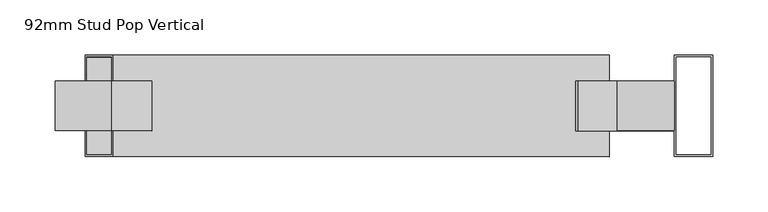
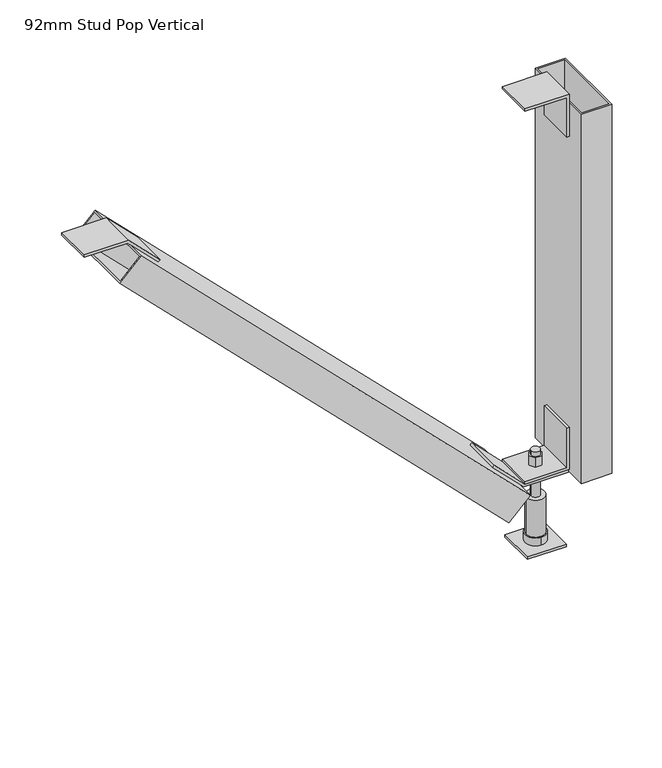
"""IFC4 building model written with IfcOpenShell, lengths in millimetres: beam geometry, Vertibrace Boxstud Brace : 92mm Stud Pop Vertical."""

from ifc_helpers import new_model, si_unit, frame, origin, origin_with_axes, place, context, project, spatial, polyline, circle_curve, outline, extrude, faceted_brep, source, transform, mapped, element, save
from ifc_brep_helpers import plane_surface, cylinder_surface, advanced_brep


def beam_92mm_stud_pop_vertical_ff91821f(model_context):
    return source(origin(), model_context, "Body", "SolidModel", [
        extrude(outline(polyline([(547.0013294, 23.235654), (498.7734408, 23.235654), (498.7734408, 26.2343246), (550.0, 26.2343246), (550.0, -24.9922346), (547.0013294, -24.9922346), (547.0013294, 23.235654)])), frame((0.0, -22.5, 0.0), z_axis=(0.0, 1.0, 0.0), x_axis=(0.0, 0.0, 1.0)), (0.0, 0.0, 1.0), 45.0),
        extrude(outline(polyline([(547.0013294, -483.535654), (511.6569723, -448.1912969), (513.7773526, -446.0709166), (550.0, -482.293564), (550.0, -533.5201232), (547.0013294, -533.5201232), (547.0013294, -483.535654)])), frame((0.0, -22.5, 0.0), z_axis=(0.0, 1.0, 0.0), x_axis=(0.0, 0.0, 1.0)), (0.0, 0.0, 1.0), 45.0),
        extrude(outline(polyline([(95.6986706, 23.235654), (95.6986706, -24.9922346), (92.7, -24.9922346), (92.7, 26.2343246), (143.9265592, 26.2343246), (143.9265592, 23.235654), (95.6986706, 23.235654)])), frame((0.0, -22.5, 0.0), z_axis=(0.0, 1.0, 0.0), x_axis=(0.0, 0.0, 1.0)), (0.0, 0.0, 1.0), 45.0),
        extrude(outline(polyline([(92.6986706, -24.9922346), (128.0430277, -60.3365917), (125.9226474, -62.456972), (89.7, -26.2343246), (89.7, 24.9922346), (92.6986706, 24.9922346), (92.6986706, -24.9922346)])), frame((0.0, -22.5, 0.0), z_axis=(0.0, 1.0, 0.0), x_axis=(0.0, 0.0, 1.0)), (0.0, 0.0, 1.0), 45.0),
        extrude(outline(polyline([(22.5, 22.5), (22.5, -22.5), (-22.5, -22.5), (-22.5, 22.5), (22.5, 22.5)])), origin_with_axes(), (0.0, 0.0, 1.0), 3.0),
        advanced_brep(
        [(-5.0, 0.0, 0.0), (5.0, 0.0, 0.0), (-5.0, 0.0, 113.0), (5.0, 0.0, 113.0), (5.0, 0.0, 3.0), (-5.0, 0.0, 3.0), (-5.0, 0.0, 107.4), (5.0, 0.0, 107.4), (-5.0, 0.0, 58.0), (5.0, 0.0, 58.0), (5.0, 0.0, 83.0), (-5.0, 0.0, 83.0), (5.0, 0.0, 95.7), (-5.0, 0.0, 95.7), (-5.0, 0.0, 89.7), (5.0, 0.0, 89.7), (-10.5, 0.0, 58.0), (10.5, 0.0, 58.0), (-10.5, 0.0, 13.0), (10.5, 0.0, 13.0), (0.0, -12.0, 13.0), (0.0, 12.0, 13.0), (3.75, 6.4951905, 107.4), (-3.75, 6.4951905, 107.4), (-7.5, 0.0, 107.4), (-3.75, -6.4951905, 107.4), (3.75, -6.4951905, 107.4), (7.5, 0.0, 107.4), (3.75, 6.4951905, 95.7), (7.5, 0.0, 95.7), (3.75, -6.4951905, 95.7), (-3.75, -6.4951905, 95.7), (-7.5, 0.0, 95.7), (-3.75, 6.4951905, 95.7), (-10.9696551, 0.0, 89.7), (-5.4848276, -9.5, 89.7), (5.4848276, -9.5, 89.7), (10.9696551, 0.0, 89.7), (5.4848276, 9.5, 89.7), (-5.4848276, 9.5, 89.7), (-10.9696551, 0.0, 83.0), (-5.4848276, 9.5, 83.0), (5.4848276, 9.5, 83.0), (10.9696551, 0.0, 83.0), (5.4848276, -9.5, 83.0), (-5.4848276, -9.5, 83.0), (0.0, -12.0, 3.0), (0.0, 12.0, 3.0)],
        [
            (0, 1, circle_curve(frame((0.0, 0.0, 0.0), z_axis=(0.0, 0.0, -1.0), x_axis=(1.0, 0.0, 0.0)), 5.0)),
            (1, 0, circle_curve(frame((0.0, 0.0, 0.0), z_axis=(0.0, 0.0, -1.0), x_axis=(1.0, 0.0, 0.0)), 5.0)),
            (2, 3, circle_curve(frame((0.0, 0.0, 113.0), z_axis=(0.0, 0.0, 1.0), x_axis=(1.0, 0.0, 0.0)), 5.0)),
            (3, 2, circle_curve(frame((0.0, 0.0, 113.0), z_axis=(0.0, 0.0, 1.0), x_axis=(1.0, 0.0, 0.0)), 5.0)),
            (1, 4),
            (4, 5, circle_curve(frame((0.0, 0.0, 3.0), z_axis=(0.0, 0.0, -1.0), x_axis=(1.0, 0.0, 0.0)), 5.0)),
            (5, 0),
            (2, 6),
            (6, 7, circle_curve(frame((0.0, 0.0, 107.4), z_axis=(0.0, 0.0, 1.0), x_axis=(1.0, 0.0, 0.0)), 5.0)),
            (7, 3),
            (8, 9, circle_curve(frame((0.0, 0.0, 58.0), z_axis=(0.0, 0.0, 1.0), x_axis=(1.0, 0.0, 0.0)), 5.0)),
            (9, 10),
            (10, 11, circle_curve(frame((0.0, 0.0, 83.0), z_axis=(0.0, 0.0, -1.0), x_axis=(1.0, 0.0, 0.0)), 5.0)),
            (11, 8),
            (12, 13, circle_curve(frame((0.0, 0.0, 95.7), z_axis=(0.0, 0.0, -1.0), x_axis=(1.0, 0.0, 0.0)), 5.0)),
            (13, 14),
            (14, 15, circle_curve(frame((0.0, 0.0, 89.7), z_axis=(0.0, 0.0, 1.0), x_axis=(1.0, 0.0, 0.0)), 5.0)),
            (15, 12),
            (5, 4, circle_curve(frame((0.0, 0.0, 3.0), z_axis=(0.0, 0.0, -1.0), x_axis=(1.0, 0.0, 0.0)), 5.0)),
            (7, 6, circle_curve(frame((0.0, 0.0, 107.4), z_axis=(0.0, 0.0, 1.0), x_axis=(1.0, 0.0, 0.0)), 5.0)),
            (9, 8, circle_curve(frame((0.0, 0.0, 58.0), z_axis=(0.0, 0.0, 1.0), x_axis=(1.0, 0.0, 0.0)), 5.0)),
            (11, 10, circle_curve(frame((0.0, 0.0, 83.0), z_axis=(0.0, 0.0, -1.0), x_axis=(1.0, 0.0, 0.0)), 5.0)),
            (13, 12, circle_curve(frame((0.0, 0.0, 95.7), z_axis=(0.0, 0.0, -1.0), x_axis=(1.0, 0.0, 0.0)), 5.0)),
            (15, 14, circle_curve(frame((0.0, 0.0, 89.7), z_axis=(0.0, 0.0, 1.0), x_axis=(1.0, 0.0, 0.0)), 5.0)),
            (16, 17, circle_curve(frame((0.0, 0.0, 58.0), z_axis=(0.0, 0.0, 1.0), x_axis=(1.0, 0.0, 0.0)), 10.5)),
            (17, 16, circle_curve(frame((0.0, 0.0, 58.0), z_axis=(0.0, 0.0, 1.0), x_axis=(1.0, 0.0, 0.0)), 10.5)),
            (16, 18),
            (18, 19, circle_curve(frame((0.0, 0.0, 13.0), z_axis=(0.0, 0.0, 1.0), x_axis=(1.0, 0.0, 0.0)), 10.5)),
            (19, 17),
            (19, 18, circle_curve(frame((0.0, 0.0, 13.0), z_axis=(0.0, 0.0, 1.0), x_axis=(1.0, 0.0, 0.0)), 10.5)),
            (20, 21, circle_curve(frame((0.0, 0.0, 13.0), z_axis=(0.0, 0.0, 1.0), x_axis=(0.0, 1.0, 0.0)), 12.0)),
            (21, 20, circle_curve(frame((0.0, 0.0, 13.0), z_axis=(0.0, 0.0, 1.0), x_axis=(0.0, 1.0, 0.0)), 12.0)),
            (22, 23),
            (23, 24),
            (24, 25),
            (25, 26),
            (26, 27),
            (27, 22),
            (28, 29),
            (29, 30),
            (30, 31),
            (31, 32),
            (32, 33),
            (33, 28),
            (22, 28),
            (33, 23),
            (32, 24),
            (31, 25),
            (30, 26),
            (29, 27),
            (34, 35),
            (35, 36),
            (36, 37),
            (37, 38),
            (38, 39),
            (39, 34),
            (40, 41),
            (41, 42),
            (42, 43),
            (43, 44),
            (44, 45),
            (45, 40),
            (34, 40),
            (45, 35),
            (44, 36),
            (43, 37),
            (42, 38),
            (41, 39),
            (46, 47, circle_curve(frame((0.0, 0.0, 3.0), z_axis=(0.0, 0.0, -1.0), x_axis=(0.0, 1.0, 0.0)), 12.0)),
            (47, 46, circle_curve(frame((0.0, 0.0, 3.0), z_axis=(0.0, 0.0, -1.0), x_axis=(0.0, 1.0, 0.0)), 12.0)),
            (47, 21),
            (20, 46),
        ],
        [
            plane_surface(frame((5.0, 0.0, 0.0), z_axis=(0.0, 0.0, -1.0), x_axis=(0.0, -1.0, 0.0))),
            plane_surface(frame((5.0, 0.0, 113.0), z_axis=(0.0, 0.0, 1.0), x_axis=(0.0, 1.0, 0.0))),
            cylinder_surface(origin_with_axes(), 5.0),
            plane_surface(frame((10.5, 0.0, 58.0), z_axis=(0.0, 0.0, 1.0), x_axis=(0.0, 1.0, 0.0))),
            cylinder_surface(frame((0.0, 0.0, 13.0), z_axis=(0.0, 0.0, 1.0), x_axis=(1.0, 0.0, 0.0)), 10.5),
            plane_surface(frame((0.0, 12.0, 13.0), z_axis=(0.0, 0.0, 1.0), x_axis=(-1.0, 0.0, 0.0))),
            plane_surface(frame((3.75, 6.4951905, 107.4), z_axis=(0.0, 0.0, 1.0), x_axis=(-1.0, 0.0, 0.0))),
            plane_surface(frame((3.75, 6.4951905, 95.7), z_axis=(0.0, 0.0, -1.0), x_axis=(1.0, 0.0, 0.0))),
            plane_surface(frame((3.75, 6.4951905, 107.4), z_axis=(0.0, 1.0, 0.0), x_axis=(0.0, 0.0, -1.0))),
            plane_surface(frame((-3.75, 6.4951905, 107.4), z_axis=(-0.866025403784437, 0.5000000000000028, 0.0), x_axis=(0.0, 0.0, -1.0))),
            plane_surface(frame((-7.5, 0.0, 107.4), z_axis=(-0.8660254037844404, -0.4999999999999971, 0.0), x_axis=(0.0, 0.0, -1.0))),
            plane_surface(frame((-3.75, -6.4951905, 107.4), z_axis=(0.0, -1.0, 0.0), x_axis=(0.0, 0.0, -1.0))),
            plane_surface(frame((3.75, -6.4951905, 107.4), z_axis=(0.8660254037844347, -0.500000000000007, 0.0), x_axis=(0.0, 0.0, -1.0))),
            plane_surface(frame((7.5, 0.0, 107.4), z_axis=(0.8660254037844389, 0.49999999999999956, 0.0), x_axis=(0.0, 0.0, -1.0))),
            plane_surface(frame((-10.9696551, 0.0, 89.7), z_axis=(0.0, 0.0, 1.0000000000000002), x_axis=(0.4999999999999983, -0.8660254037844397, 0.0))),
            plane_surface(frame((-10.9696551, 0.0, 83.0), z_axis=(0.0, 0.0, -1.0000000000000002), x_axis=(-0.4999999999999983, 0.8660254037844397, 0.0))),
            plane_surface(frame((-10.9696551, 0.0, 89.7), z_axis=(-0.8660254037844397, -0.4999999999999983, 0.0), x_axis=(0.0, 0.0, -1.0))),
            plane_surface(frame((-5.4848276, -9.5, 89.7), z_axis=(0.0, -1.0, 0.0), x_axis=(0.0, 0.0, -1.0))),
            plane_surface(frame((5.4848276, -9.5, 89.7), z_axis=(0.8660254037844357, -0.5000000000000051, 0.0), x_axis=(0.0, 0.0, -1.0))),
            plane_surface(frame((10.9696551, 0.0, 89.7), z_axis=(0.8660254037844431, 0.4999999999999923, 0.0), x_axis=(0.0, 0.0, -1.0))),
            plane_surface(frame((5.4848276, 9.5, 89.7), z_axis=(0.0, 1.0, 0.0), x_axis=(0.0, 0.0, -1.0))),
            plane_surface(frame((-5.4848276, 9.5, 89.7), z_axis=(-0.8660254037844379, 0.5000000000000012, 0.0), x_axis=(0.0, 0.0, -1.0))),
            plane_surface(frame((0.0, 12.0, 3.0), z_axis=(0.0, 0.0, -1.0), x_axis=(1.0, 0.0, 0.0))),
            cylinder_surface(frame((0.0, 0.0, 3.0), z_axis=(0.0, 0.0, 1.0), x_axis=(0.0, 1.0, 0.0)), 12.0),
        ],
        [
            (0, [[1, 2]]),
            (1, [[3, 4]]),
            (2, [[-2, 5, 6, 7]]),
            (2, [[-3, 8, 9, 10]]),
            (2, [[11, 12, 13, 14]]),
            (2, [[15, 16, 17, 18]]),
            (2, [[-1, -7, 19, -5]]),
            (2, [[-4, -10, 20, -8]]),
            (2, [[21, -14, 22, -12]]),
            (2, [[23, -18, 24, -16]]),
            (3, [[25, 26], [-11, -21]]),
            (4, [[-25, 27, 28, 29]]),
            (4, [[-26, -29, 30, -27]]),
            (5, [[31, 32], [-28, -30]]),
            (6, [[33, 34, 35, 36, 37, 38], [-9, -20]]),
            (7, [[39, 40, 41, 42, 43, 44], [-15, -23]]),
            (8, [[-33, 45, -44, 46]]),
            (9, [[-34, -46, -43, 47]]),
            (10, [[-35, -47, -42, 48]]),
            (11, [[-36, -48, -41, 49]]),
            (12, [[-37, -49, -40, 50]]),
            (13, [[-38, -50, -39, -45]]),
            (14, [[51, 52, 53, 54, 55, 56], [-17, -24]]),
            (15, [[57, 58, 59, 60, 61, 62], [-13, -22]]),
            (16, [[-51, 63, -62, 64]]),
            (17, [[-52, -64, -61, 65]]),
            (18, [[-53, -65, -60, 66]]),
            (19, [[-54, -66, -59, 67]]),
            (20, [[-55, -67, -58, 68]]),
            (21, [[-56, -68, -57, -63]]),
            (22, [[69, 70], [-6, -19]]),
            (23, [[-70, 71, -31, 72]]),
            (23, [[-69, -72, -32, -71]]),
        ],
    ),
        extrude(outline(polyline([(26.2343246, 46.0), (61.2343246, 46.0), (61.2343246, -46.0), (26.2343246, -46.0), (26.2343246, 46.0)]), holes=[polyline([(59.2343246, -44.0), (59.2343246, 44.0), (28.2343246, 44.0), (28.2343246, -44.0), (59.2343246, -44.0)])]), frame((0.0, 0.0, 89.7), z_axis=(0.0, 0.0, 1.0), x_axis=(1.0, 0.0, 0.0)), (0.0, 0.0, 1.0), 450.3),
        faceted_brep([(-32.5343246, -46.0, 96.0), (-57.283062, -46.0, 71.2512627), (-57.283062, -45.0, 71.2512627), (-43.5343246, -45.0, 85.0), (-43.5343246, -44.0, 85.0), (-33.9485382, -44.0, 94.5857864), (-33.9485382, 44.0, 94.5857864), (-43.5343246, 44.0, 85.0), (-43.5343246, 46.0, 85.0), (-32.5343246, 46.0, 96.0), (-481.4883773, -46.0, 544.9540527), (-481.4883773, 46.0, 544.9540527), (-506.2371147, 46.0, 520.2053154), (-506.2371147, -46.0, 520.2053154), (-504.8229011, 44.0, 521.6195289), (-482.9025909, 44.0, 543.5398392), (-482.9025909, -44.0, 543.5398392), (-504.8229011, -44.0, 521.6195289), (-71.0317993, 46.0, 85.0), (-71.0317993, -45.0, 85.0), (-68.2033722, 44.0, 85.0), (-68.2033722, -44.0, 85.0)], [[[0, 1, 2, 3, 4, 5, 6, 7, 8, 9]], [[10, 11, 12, 13], [14, 15, 16, 17]], [[1, 0, 10, 13]], [[13, 12, 18, 19, 2, 1]], [[12, 11, 9, 8, 18]], [[0, 9, 11, 10]], [[19, 3, 2]], [[3, 19, 18, 8, 7, 20, 21, 4]], [[14, 17, 21, 20]], [[17, 16, 5, 4, 21]], [[6, 5, 16, 15]], [[15, 14, 20, 7, 6]]]),
    ])


if __name__ == "__main__":
    model = new_model("IFC4")
    model_context = context("Model", 3, world=origin())
    ifc_project = project(units=[si_unit("LENGTHUNIT", "METRE", prefix="MILLI")], contexts=[model_context])
    site = spatial("IfcSite", under=ifc_project)
    building = spatial("IfcBuilding", under=site)
    placement = place(None, origin())
    beam_92mm_stud_pop_vertical_shape = beam_92mm_stud_pop_vertical_ff91821f(model_context)
    element("IfcBeam", 1, ObjectType="Vertibrace Boxstud Brace : 92mm Stud Pop Vertical", at=placement, inside=building, context=model_context, shape_type="MappedRepresentation", body=[
        mapped(beam_92mm_stud_pop_vertical_shape, transform((0.0, 0.0, 0.0), x_axis=(1.0, 0.0, 0.0), y_axis=(0.0, 1.0, 0.0), z_axis=(0.0, 0.0, 1.0))),
    ])
    save(model, "model.ifc")
